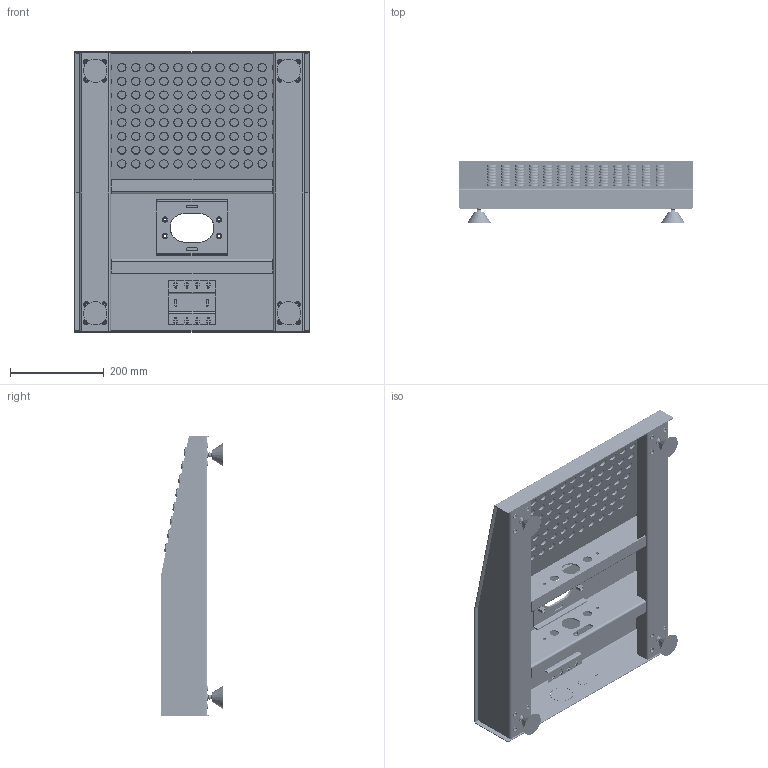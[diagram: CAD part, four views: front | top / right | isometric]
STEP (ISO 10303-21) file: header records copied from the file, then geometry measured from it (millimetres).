
FILE_DESCRIPTION (( 'STEP AP203' ), '1' );
FILE_NAME ('KS.060.03.STEP', '2024-10-17T10:56:37', ( '' ), ( '' ), 'SwSTEP 2.0', 'SolidWorks 2022', '' );
FILE_SCHEMA (( 'CONFIG_CONTROL_DESIGN' ));
Products named in the file (1): KS.060.03
Bounding box: 500 x 132.52 x 600 mm (x, y, z)
Volume: 1818866.3 mm3; surface area: 1460808.4 mm2
Topology: 29 solids, 33 shells, 2826 faces, 6131 edges, 3612 vertices
Faces by surface type: plane 1004, cylinder 854, cone 616, torus 208, sphere 120, bspline 24
Full cylindrical faces by diameter (mm): 3 x8, 4.9 x16, 7.8 x16, 8 x4, 8.9 x4, 9.8 x4, 10 x120, 11 x16, 11.8 x4, 15 x4, 16 x12, 18 x104, 20 x4, 40 x2
Entity records: 71102 total; most frequent: CARTESIAN_POINT 13196, DIRECTION 12555, ORIENTED_EDGE 9970, AXIS2_PLACEMENT_3D 5035, EDGE_CURVE 4985, EDGE_LOOP 4351, VERTEX_POINT 3584, FACE_OUTER_BOUND 3328
